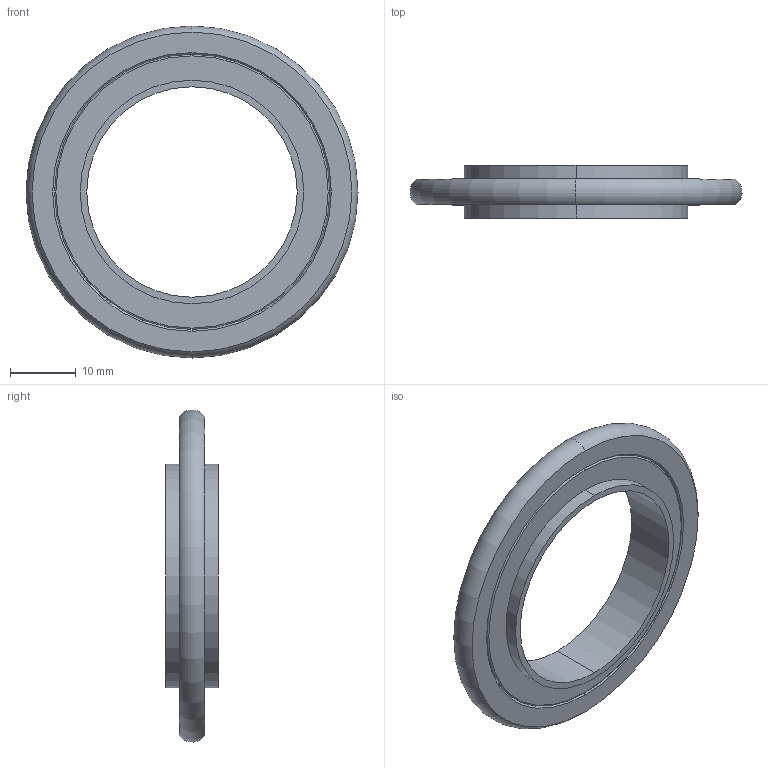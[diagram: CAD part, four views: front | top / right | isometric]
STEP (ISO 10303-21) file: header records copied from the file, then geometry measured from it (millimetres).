
FILE_DESCRIPTION((''),'2;1');
FILE_NAME('18203-SW0001','2016-03-04T',('l0100062'),('Copyright by Leybold GmbH'),'PRO/ENGINEER BY PARAMETRIC TECHNOLOGY CORPORATION, 2015280','PRO/ENGINEER BY PARAMETRIC TECHNOLOGY CORPORATION, 2015280','');
FILE_SCHEMA(('AUTOMOTIVE_DESIGN { 1 0 10303 214 1 1 1 1 }'));
Length unit declared in the file: millimetre
Products named in the file (1): 18203-DAO_SW0001
Bounding box: 50.48 x 8 x 50.48 mm (x, y, z)
Volume: 4913.7 mm3; surface area: 4163.9 mm2
Topology: 1 solids, 1 shells, 22 faces, 44 edges, 28 vertices
Faces by surface type: torus 10, cylinder 6, plane 6
Entity records: 849 total; most frequent: DIRECTION 126, CARTESIAN_POINT 96, ORIENTED_EDGE 88, AXIS2_PLACEMENT_3D 60, COLOUR_RGB 47, EDGE_CURVE 44, CIRCLE 38, VERTEX_POINT 28
